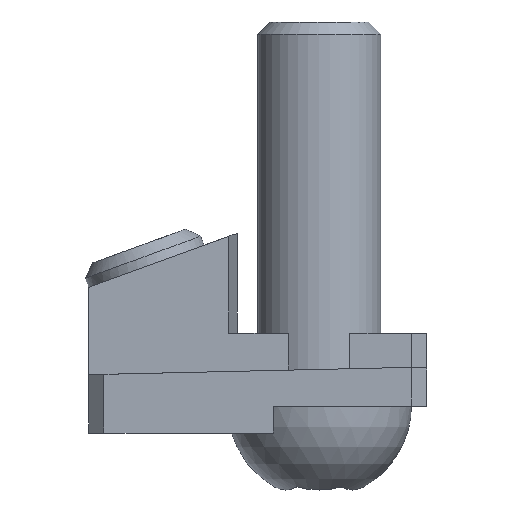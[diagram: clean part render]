
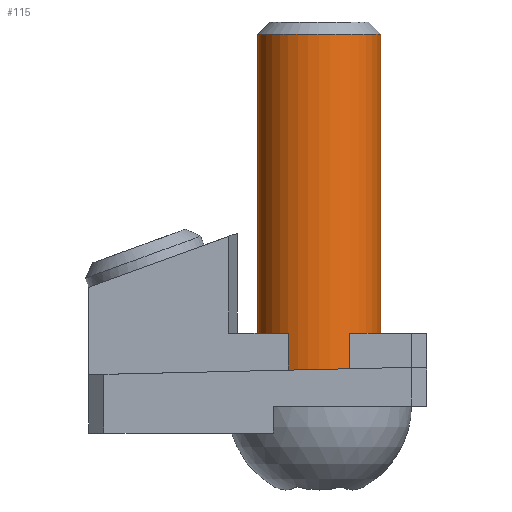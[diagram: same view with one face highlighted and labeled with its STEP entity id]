
A CAD part, front view. The second image highlights one B-rep face of the part: STEP entity #115.
In plain terms, the highlighted cylindrical face has radius 4 mm (diameter 8 mm), a full revolution.
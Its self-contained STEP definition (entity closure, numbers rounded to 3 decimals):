
#84=CARTESIAN_POINT('',(-4.0,0.,19.45));
#85=VERTEX_POINT('',#84);
#86=CARTESIAN_POINT('',(0.0,0.0,19.45));
#87=DIRECTION('',(0.0,0.0,1.0));
#88=DIRECTION('',(1.0,0.0,0.0));
#89=AXIS2_PLACEMENT_3D('',#86,#87,#88);
#90=CIRCLE('',#89,4.0);
#91=EDGE_CURVE('',#85,#85,#90,.T.);
#96=CARTESIAN_POINT('',(0.0,0.0,7.35));
#97=DIRECTION('',(0.0,0.0,-1.0));
#98=DIRECTION('',(1.0,0.0,0.0));
#99=AXIS2_PLACEMENT_3D('',#96,#97,#98);
#100=CYLINDRICAL_SURFACE('',#99,4.0);
#101=ORIENTED_EDGE('',*,*,#91,.F.);
#102=EDGE_LOOP('',(#101));
#103=FACE_OUTER_BOUND('',#102,.T.);
#104=CARTESIAN_POINT('',(-4.0,0.,-4.75));
#105=VERTEX_POINT('',#104);
#106=CARTESIAN_POINT('',(0.0,0.0,-4.75));
#107=DIRECTION('',(0.0,0.0,1.0));
#108=DIRECTION('',(1.0,0.0,0.0));
#109=AXIS2_PLACEMENT_3D('',#106,#107,#108);
#110=CIRCLE('',#109,4.0);
#111=EDGE_CURVE('',#105,#105,#110,.T.);
#112=ORIENTED_EDGE('',*,*,#111,.T.);
#113=EDGE_LOOP('',(#112));
#114=FACE_BOUND('',#113,.T.);
#115=ADVANCED_FACE('',(#103,#114),#100,.T.);
